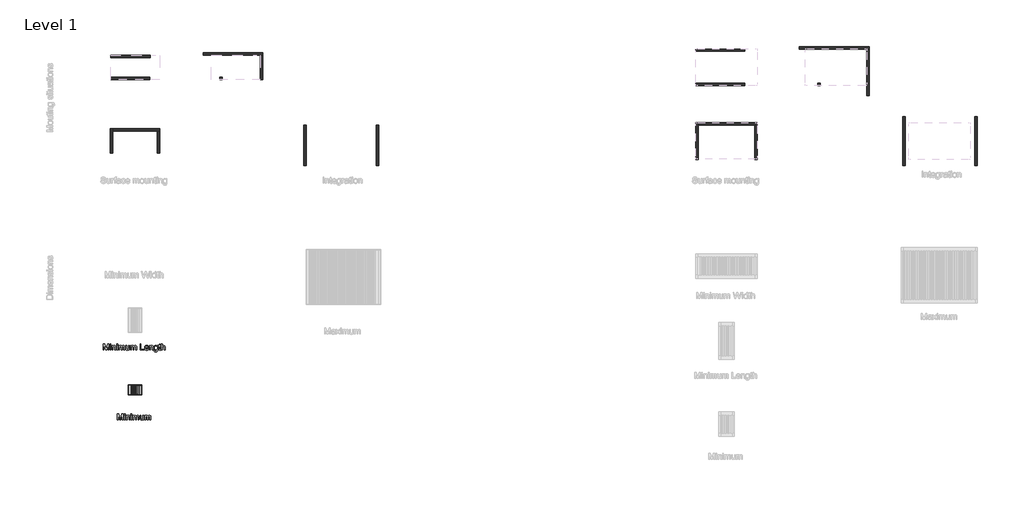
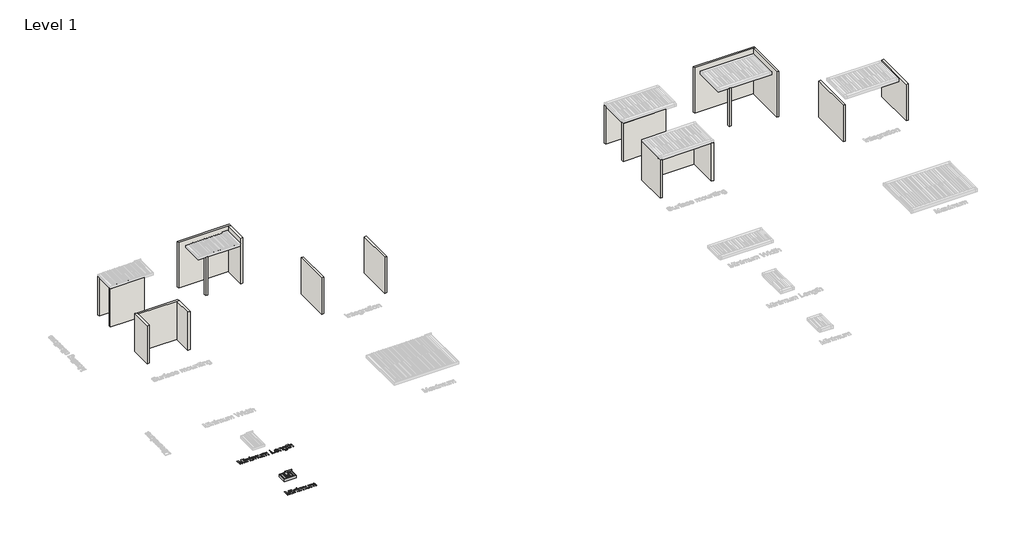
# One storey, part 1 of 12: 20 walls, 3 proxies.
"""IFC4 building model written with IfcOpenShell, lengths in millimetres."""

from ifc_helpers import new_model, si_unit, origin, origin_with_axes, place, context, project, spatial, polyline, outline, extrude, faceted_brep, transform, mapped, element, save
from components import generic_models_86b0b980

model = new_model("IFC4")

# Units and contexts
model_context = context("Model", 3, world=origin())
ifc_project = project(units=[si_unit("LENGTHUNIT", "METRE", prefix="MILLI")], contexts=[model_context])

# Site, building, storey
site = spatial("IfcSite", under=ifc_project)
building = spatial("IfcBuilding", under=site)
storey = spatial("IfcBuildingStorey", under=building, Name="Level 1", Elevation=0.0)

# Proxies
placement = place(None, origin())
generic_models_shape = generic_models_86b0b980(model_context)
element("IfcBuildingElementProxy", 1, Name="Renson_Aero_Patio covers : Aero - Single", ObjectType="Renson_Aero_Patio covers : Aero - Single", at=placement, inside=storey, context=model_context, shape_type="MappedRepresentation", body=[
    mapped(generic_models_shape, transform((-9286.834943, -19998.4078371, 0.0), x_axis=(1.0, 0.0, 0.0), y_axis=(0.0, 1.0, 0.0), z_axis=(0.0, 0.0, 1.0))),
])
element("IfcBuildingElementProxy", 2, Name="500mm Arial", ObjectType="500mm Arial", at=placement, inside=storey, context=model_context, shape_type="SweptSolid", body=[
    extrude(outline(polyline([(-10725.2445903, -22454.1927147), (-10725.2445903, -21951.911164), (-10617.2099111, -21951.911164), (-10514.4482071, -22305.9362707), (-10493.724188, -22379.8805517), (-10471.2833863, -22299.8049041), (-10370.238465, -21951.911164), (-10262.2037857, -21951.911164), (-10262.2037857, -22454.1927147), (-10324.9889796, -22454.1927147), (-10324.9889796, -22014.6963578), (-10451.1725039, -22454.1927147), (-10536.2758721, -22454.1927147), (-10662.4593965, -22014.6963578), (-10662.4593965, -22454.1927147), (-10725.2445903, -22454.1927147)])), origin_with_axes(), (0.0, 0.0, 1.0), 5.0),
    extrude(outline(polyline([(-10160.1778457, -22454.1927147), (-10160.1778457, -22085.3297009), (-10097.3926519, -22085.3297009), (-10097.3926519, -22454.1927147), (-10160.1778457, -22454.1927147)])), origin_with_axes(), (0.0, 0.0, 1.0), 5.0),
    extrude(outline(polyline([(-10160.1778457, -22014.6963578), (-10160.1778457, -21951.911164), (-10097.3926519, -21951.911164), (-10097.3926519, -22014.6963578), (-10160.1778457, -22014.6963578)])), origin_with_axes(), (0.0, 0.0, 1.0), 5.0),
    extrude(outline(polyline([(-10003.2148611, -22454.1927147), (-10003.2148611, -22085.3297009), (-9940.4296673, -22085.3297009), (-9940.4296673, -22136.8331802), (-9918.6173307, -22110.8668427), (-9892.4210669, -22092.3194588), (-9861.8408761, -22081.1910284), (-9826.8767581, -22077.4815516), (-9795.9286853, -22080.4705929), (-9767.5864432, -22089.4377165), (-9743.950025, -22103.2639481), (-9727.1194238, -22120.8303134), (-9715.6997535, -22142.0908271), (-9708.2961283, -22166.9995038), (-9704.9851904, -22227.700033), (-9704.9851904, -22454.1927147), (-9767.7703842, -22454.1927147), (-9767.7703842, -22236.1613189), (-9769.5791374, -22203.6957328), (-9775.0053968, -22180.6111376), (-9785.0148527, -22164.0717763), (-9800.5731955, -22151.2418917), (-9820.5154653, -22143.010532), (-9843.6767026, -22140.2667455), (-9862.7414205, -22141.8072513), (-9880.4495737, -22146.4287689), (-9896.8011619, -22154.1312982), (-9911.7961853, -22164.9148392), (-9924.3233337, -22180.0056652), (-9933.2712968, -22200.6300495), (-9938.6400747, -22226.7879922), (-9940.4296673, -22258.4794933), (-9940.4296673, -22454.1927147), (-10003.2148611, -22454.1927147)])), origin_with_axes(), (0.0, 0.0, 1.0), 5.0),
    extrude(outline(polyline([(-9618.6555488, -22014.6963578), (-9618.6555488, -21951.911164), (-9555.870355, -21951.911164), (-9555.870355, -22014.6963578), (-9618.6555488, -22014.6963578)])), origin_with_axes(), (0.0, 0.0, 1.0), 5.0),
    extrude(outline(polyline([(-9618.6555488, -22454.1927147), (-9618.6555488, -22085.3297009), (-9555.870355, -22085.3297009), (-9555.870355, -22454.1927147), (-9618.6555488, -22454.1927147)])), origin_with_axes(), (0.0, 0.0, 1.0), 5.0),
    extrude(outline(polyline([(-9461.6925642, -22454.1927147), (-9461.6925642, -22085.3297009), (-9398.9073704, -22085.3297009), (-9398.9073704, -22146.0302301), (-9380.0227613, -22118.1478405), (-9355.7425496, -22096.3048471), (-9326.8944698, -22082.1873755), (-9294.3062564, -22077.4815516), (-9259.3881237, -22082.279346), (-9231.3984353, -22096.6727291), (-9210.4904752, -22119.711339), (-9196.8175277, -22150.444814), (-9173.9322019, -22118.5233867), (-9147.8279087, -22095.7223672), (-9118.504648, -22082.0417555), (-9085.9624198, -22077.4815516), (-9060.8276489, -22079.3784432), (-9038.7662255, -22085.0691178), (-9019.7781496, -22094.5535755), (-9003.8634212, -22107.8318163), (-8991.2826234, -22125.0571243), (-8982.2963393, -22146.3827837), (-8976.9045688, -22171.8087945), (-8975.1073119, -22201.3351567), (-8975.1073119, -22454.1927147), (-9037.8925058, -22454.1927147), (-9037.8925058, -22228.3131697), (-9039.3487054, -22196.9972148), (-9043.717304, -22175.8899854), (-9051.9026784, -22161.4352886), (-9064.8092051, -22150.076932), (-9081.4098801, -22142.7192921), (-9100.6776996, -22140.2667455), (-9118.470159, -22141.8379082), (-9134.6914558, -22146.5513962), (-9149.3415898, -22154.4072097), (-9162.4205612, -22165.4053485), (-9173.1772774, -22179.8677094), (-9180.8606462, -22198.1161892), (-9185.4706674, -22220.1507879), (-9187.0073412, -22245.9715054), (-9187.0073412, -22454.1927147), (-9249.792535, -22454.1927147), (-9249.792535, -22221.3234118), (-9253.4253697, -22185.8227992), (-9264.3238738, -22160.5002552), (-9272.7506708, -22151.6480947), (-9283.4997228, -22145.3251229), (-9311.9645922, -22140.2667455), (-9336.1528334, -22143.6389971), (-9358.4403509, -22153.755752), (-9376.8344507, -22170.3717554), (-9389.3424385, -22193.2417528), (-9396.5161374, -22224.9715749), (-9398.9073704, -22268.1670525), (-9398.9073704, -22454.1927147), (-9461.6925642, -22454.1927147)])), origin_with_axes(), (0.0, 0.0, 1.0), 5.0),
    extrude(outline(polyline([(-8645.4850443, -22454.1927147), (-8645.4850443, -22390.7943842), (-8668.2017575, -22421.9647191), (-8694.6586043, -22444.229244), (-8724.8555847, -22457.587959), (-8758.7926988, -22462.0408639), (-8789.3728896, -22458.913867), (-8817.837759, -22449.5328761), (-8841.7194319, -22435.430733), (-8858.5500331, -22418.1402792), (-8869.8777329, -22397.1403486), (-8877.2507012, -22371.9097751), (-8880.9295212, -22313.5391652), (-8880.9295212, -22085.3297009), (-8818.1443273, -22085.3297009), (-8818.1443273, -22283.9859783), (-8814.3428801, -22347.9974454), (-8805.1918154, -22369.3499296), (-8789.5108454, -22385.5827226), (-8768.3423022, -22395.8374332), (-8742.7285183, -22399.2556701), (-8715.6432064, -22395.7607911), (-8690.305334, -22385.2761543), (-8669.4127024, -22368.7674497), (-8655.6631128, -22347.2003678), (-8648.0295614, -22317.6625093), (-8645.4850443, -22277.241475), (-8645.4850443, -22085.3297009), (-8582.6998504, -22085.3297009), (-8582.6998504, -22454.1927147), (-8645.4850443, -22454.1927147)])), origin_with_axes(), (0.0, 0.0, 1.0), 5.0),
    extrude(outline(polyline([(-8496.3702089, -22454.1927147), (-8496.3702089, -22085.3297009), (-8433.585015, -22085.3297009), (-8433.585015, -22146.0302301), (-8414.700406, -22118.1478405), (-8390.4201943, -22096.3048471), (-8361.5721145, -22082.1873755), (-8328.9839011, -22077.4815516), (-8294.0657684, -22082.279346), (-8266.0760799, -22096.6727291), (-8245.1681198, -22119.711339), (-8231.4951724, -22150.444814), (-8208.6098466, -22118.5233867), (-8182.5055533, -22095.7223672), (-8153.1822926, -22082.0417555), (-8120.6400645, -22077.4815516), (-8095.5052936, -22079.3784432), (-8073.4438702, -22085.0691178), (-8054.4557943, -22094.5535755), (-8038.5410659, -22107.8318163), (-8025.9602681, -22125.0571243), (-8016.9739839, -22146.3827837), (-8011.5822134, -22171.8087945), (-8009.7849566, -22201.3351567), (-8009.7849566, -22454.1927147), (-8072.5701504, -22454.1927147), (-8072.5701504, -22228.3131697), (-8074.02635, -22196.9972148), (-8078.3949487, -22175.8899854), (-8086.5803231, -22161.4352886), (-8099.4868498, -22150.076932), (-8116.0875248, -22142.7192921), (-8135.3553443, -22140.2667455), (-8153.1478037, -22141.8379082), (-8169.3691004, -22146.5513962), (-8184.0192345, -22154.4072097), (-8197.0982058, -22165.4053485), (-8207.8549221, -22179.8677094), (-8215.5382908, -22198.1161892), (-8220.1483121, -22220.1507879), (-8221.6849858, -22245.9715054), (-8221.6849858, -22454.1927147), (-8284.4701797, -22454.1927147), (-8284.4701797, -22221.3234118), (-8288.1030144, -22185.8227992), (-8299.0015185, -22160.5002552), (-8307.4283154, -22151.6480947), (-8318.1773675, -22145.3251229), (-8346.6422369, -22140.2667455), (-8370.830478, -22143.6389971), (-8393.1179956, -22153.755752), (-8411.5120953, -22170.3717554), (-8424.0200832, -22193.2417528), (-8431.1937821, -22224.9715749), (-8433.585015, -22268.1670525), (-8433.585015, -22454.1927147), (-8496.3702089, -22454.1927147)])), origin_with_axes(), (0.0, 0.0, 1.0), 5.0),
])
element("IfcBuildingElementProxy", 3, Name="500mm Arial", ObjectType="500mm Arial", at=placement, inside=storey, context=model_context, shape_type="SweptSolid", body=[
    extrude(outline(polyline([(-11882.8466018, -16754.1927147), (-11882.8466018, -16251.911164), (-11774.8119226, -16251.911164), (-11672.0502186, -16605.9362707), (-11651.3261995, -16679.8805517), (-11628.8853978, -16599.8049041), (-11527.8404765, -16251.911164), (-11419.8057972, -16251.911164), (-11419.8057972, -16754.1927147), (-11482.5909911, -16754.1927147), (-11482.5909911, -16314.6963578), (-11608.7745154, -16754.1927147), (-11693.8778836, -16754.1927147), (-11820.061408, -16314.6963578), (-11820.061408, -16754.1927147), (-11882.8466018, -16754.1927147)])), origin_with_axes(), (0.0, 0.0, 1.0), 5.0),
    extrude(outline(polyline([(-11317.7798572, -16754.1927147), (-11317.7798572, -16385.3297009), (-11254.9946634, -16385.3297009), (-11254.9946634, -16754.1927147), (-11317.7798572, -16754.1927147)])), origin_with_axes(), (0.0, 0.0, 1.0), 5.0),
    extrude(outline(polyline([(-11317.7798572, -16314.6963578), (-11317.7798572, -16251.911164), (-11254.9946634, -16251.911164), (-11254.9946634, -16314.6963578), (-11317.7798572, -16314.6963578)])), origin_with_axes(), (0.0, 0.0, 1.0), 5.0),
    extrude(outline(polyline([(-11160.8168726, -16754.1927147), (-11160.8168726, -16385.3297009), (-11098.0316788, -16385.3297009), (-11098.0316788, -16436.8331802), (-11076.2193421, -16410.8668427), (-11050.0230784, -16392.3194588), (-11019.4428876, -16381.1910284), (-10984.4787696, -16377.4815516), (-10953.5306968, -16380.4705929), (-10925.1884547, -16389.4377165), (-10901.5520365, -16403.2639481), (-10884.7214352, -16420.8303134), (-10873.301765, -16442.0908271), (-10865.8981398, -16466.9995038), (-10862.5872019, -16527.700033), (-10862.5872019, -16754.1927147), (-10925.3723957, -16754.1927147), (-10925.3723957, -16536.1613189), (-10927.1811489, -16503.6957328), (-10932.6074083, -16480.6111376), (-10942.6168642, -16464.0717763), (-10958.1752069, -16451.2418917), (-10978.1174768, -16443.010532), (-11001.278714, -16440.2667455), (-11020.343432, -16441.8072513), (-11038.0515851, -16446.4287689), (-11054.4031734, -16454.1312982), (-11069.3981968, -16464.9148392), (-11081.9253452, -16480.0056652), (-11090.8733083, -16500.6300495), (-11096.2420862, -16526.7879922), (-11098.0316788, -16558.4794933), (-11098.0316788, -16754.1927147), (-11160.8168726, -16754.1927147)])), origin_with_axes(), (0.0, 0.0, 1.0), 5.0),
    extrude(outline(polyline([(-10776.2575603, -16314.6963578), (-10776.2575603, -16251.911164), (-10713.4723665, -16251.911164), (-10713.4723665, -16314.6963578), (-10776.2575603, -16314.6963578)])), origin_with_axes(), (0.0, 0.0, 1.0), 5.0),
    extrude(outline(polyline([(-10776.2575603, -16754.1927147), (-10776.2575603, -16385.3297009), (-10713.4723665, -16385.3297009), (-10713.4723665, -16754.1927147), (-10776.2575603, -16754.1927147)])), origin_with_axes(), (0.0, 0.0, 1.0), 5.0),
    extrude(outline(polyline([(-10619.2945757, -16754.1927147), (-10619.2945757, -16385.3297009), (-10556.5093819, -16385.3297009), (-10556.5093819, -16446.0302301), (-10537.6247728, -16418.1478405), (-10513.3445611, -16396.3048471), (-10484.4964813, -16382.1873755), (-10451.9082679, -16377.4815516), (-10416.9901352, -16382.279346), (-10389.0004467, -16396.6727291), (-10368.0924867, -16419.711339), (-10354.4195392, -16450.444814), (-10331.5342134, -16418.5233867), (-10305.4299202, -16395.7223672), (-10276.1066595, -16382.0417555), (-10243.5644313, -16377.4815516), (-10218.4296604, -16379.3784432), (-10196.368237, -16385.0691178), (-10177.3801611, -16394.5535755), (-10161.4654327, -16407.8318163), (-10148.8846349, -16425.0571243), (-10139.8983508, -16446.3827837), (-10134.5065803, -16471.8087945), (-10132.7093234, -16501.3351567), (-10132.7093234, -16754.1927147), (-10195.4945173, -16754.1927147), (-10195.4945173, -16528.3131697), (-10196.9507168, -16496.9972148), (-10201.3193155, -16475.8899854), (-10209.5046899, -16461.4352886), (-10222.4112166, -16450.076932), (-10239.0118916, -16442.7192921), (-10258.2797111, -16440.2667455), (-10276.0721705, -16441.8379082), (-10292.2934673, -16446.5513962), (-10306.9436013, -16454.4072097), (-10320.0225726, -16465.4053485), (-10330.7792889, -16479.8677094), (-10338.4626577, -16498.1161892), (-10343.0726789, -16520.1507879), (-10344.6093527, -16545.9715054), (-10344.6093527, -16754.1927147), (-10407.3945465, -16754.1927147), (-10407.3945465, -16521.3234118), (-10411.0273812, -16485.8227992), (-10421.9258853, -16460.5002552), (-10430.3526823, -16451.6480947), (-10441.1017343, -16445.3251229), (-10469.5666037, -16440.2667455), (-10493.7548449, -16443.6389971), (-10516.0423624, -16453.755752), (-10534.4364622, -16470.3717554), (-10546.94445, -16493.2417528), (-10554.1181489, -16524.9715749), (-10556.5093819, -16568.1670525), (-10556.5093819, -16754.1927147), (-10619.2945757, -16754.1927147)])), origin_with_axes(), (0.0, 0.0, 1.0), 5.0),
    extrude(outline(polyline([(-9803.0870558, -16754.1927147), (-9803.0870558, -16690.7943842), (-9825.803769, -16721.9647191), (-9852.2606158, -16744.229244), (-9882.4575962, -16757.587959), (-9916.3947103, -16762.0408639), (-9946.9749011, -16758.913867), (-9975.4397705, -16749.5328761), (-9999.3214433, -16735.430733), (-10016.1520446, -16718.1402792), (-10027.4797444, -16697.1403486), (-10034.8527127, -16671.9097751), (-10038.5315327, -16613.5391652), (-10038.5315327, -16385.3297009), (-9975.7463388, -16385.3297009), (-9975.7463388, -16583.9859783), (-9971.9448915, -16647.9974454), (-9962.7938269, -16669.3499296), (-9947.1128569, -16685.5827226), (-9925.9443137, -16695.8374332), (-9900.3305298, -16699.2556701), (-9873.2452179, -16695.7607911), (-9847.9073455, -16685.2761543), (-9827.0147139, -16668.7674497), (-9813.2651243, -16647.2003678), (-9805.6315729, -16617.6625093), (-9803.0870558, -16577.241475), (-9803.0870558, -16385.3297009), (-9740.3018619, -16385.3297009), (-9740.3018619, -16754.1927147), (-9803.0870558, -16754.1927147)])), origin_with_axes(), (0.0, 0.0, 1.0), 5.0),
    extrude(outline(polyline([(-9653.9722204, -16754.1927147), (-9653.9722204, -16385.3297009), (-9591.1870265, -16385.3297009), (-9591.1870265, -16446.0302301), (-9572.3024174, -16418.1478405), (-9548.0222058, -16396.3048471), (-9519.174126, -16382.1873755), (-9486.5859126, -16377.4815516), (-9451.6677799, -16382.279346), (-9423.6780914, -16396.6727291), (-9402.7701313, -16419.711339), (-9389.0971838, -16450.444814), (-9366.2118581, -16418.5233867), (-9340.1075648, -16395.7223672), (-9310.7843041, -16382.0417555), (-9278.242076, -16377.4815516), (-9253.1073051, -16379.3784432), (-9231.0458817, -16385.0691178), (-9212.0578058, -16394.5535755), (-9196.1430774, -16407.8318163), (-9183.5622796, -16425.0571243), (-9174.5759954, -16446.3827837), (-9169.1842249, -16471.8087945), (-9167.3869681, -16501.3351567), (-9167.3869681, -16754.1927147), (-9230.1721619, -16754.1927147), (-9230.1721619, -16528.3131697), (-9231.6283615, -16496.9972148), (-9235.9969602, -16475.8899854), (-9244.1823346, -16461.4352886), (-9257.0888612, -16450.076932), (-9273.6895363, -16442.7192921), (-9292.9573558, -16440.2667455), (-9310.7498152, -16441.8379082), (-9326.9711119, -16446.5513962), (-9341.621246, -16454.4072097), (-9354.7002173, -16465.4053485), (-9365.4569336, -16479.8677094), (-9373.1403023, -16498.1161892), (-9377.7503236, -16520.1507879), (-9379.2869973, -16545.9715054), (-9379.2869973, -16754.1927147), (-9442.0721912, -16754.1927147), (-9442.0721912, -16521.3234118), (-9445.7050259, -16485.8227992), (-9456.60353, -16460.5002552), (-9465.0303269, -16451.6480947), (-9475.779379, -16445.3251229), (-9504.2442483, -16440.2667455), (-9528.4324895, -16443.6389971), (-9550.7200071, -16453.755752), (-9569.1141068, -16470.3717554), (-9581.6220947, -16493.2417528), (-9588.7957936, -16524.9715749), (-9591.1870265, -16568.1670525), (-9591.1870265, -16754.1927147), (-9653.9722204, -16754.1927147)])), origin_with_axes(), (0.0, 0.0, 1.0), 5.0),
    extrude(outline(polyline([(-8869.1572973, -16754.1927147), (-8869.1572973, -16251.911164), (-8806.3721035, -16251.911164), (-8806.3721035, -16691.4075209), (-8555.2313281, -16691.4075209), (-8555.2313281, -16754.1927147), (-8869.1572973, -16754.1927147)])), origin_with_axes(), (0.0, 0.0, 1.0), 5.0),
    extrude(outline(polyline([(-8234.1929737, -16644.3186255), (-8172.6340531, -16652.1667747), (-8182.0725256, -16676.8225326), (-8194.8142718, -16698.5505629), (-8210.8592917, -16717.3508657), (-8230.2075854, -16733.223441), (-8252.6598834, -16745.8310635), (-8278.0169163, -16754.8365082), (-8306.2786842, -16760.239775), (-8337.445187, -16762.0408639), (-8376.4023574, -16758.9330275), (-8411.1135565, -16749.6095182), (-8441.5787842, -16734.070336), (-8467.7980406, -16712.3154809), (-8488.8822774, -16684.9504254), (-8503.9424466, -16652.580642), (-8512.9785481, -16615.2061305), (-8515.990582, -16572.8268911), (-8512.9478913, -16529.0106126), (-8503.8198193, -16490.3906673), (-8488.6063659, -16456.9670552), (-8467.3075313, -16428.7397763), (-8441.1572528, -16406.314303), (-8411.389468, -16390.2961078), (-8378.0041769, -16380.6851907), (-8341.0013796, -16377.4815516), (-8305.1903666, -16380.6775265), (-8272.8052547, -16390.265451), (-8243.8460439, -16406.2453251), (-8218.3127342, -16428.617149), (-8197.4699199, -16456.7831142), (-8182.5821954, -16490.1454127), (-8173.6495607, -16528.7040443), (-8170.6720158, -16572.4590091), (-8171.0398978, -16589.3815809), (-8453.2053881, -16589.3815809), (-8449.5687213, -16614.4358776), (-8442.3375408, -16636.3785058), (-8431.5118467, -16655.2094654), (-8417.0916389, -16670.9287565), (-8399.8739951, -16683.3217812), (-8380.655993, -16692.1739417), (-8359.4376325, -16697.485238), (-8336.2189137, -16699.2556701), (-8302.8029658, -16695.975389), (-8274.6599931, -16686.1345456), (-8251.7899958, -16669.1200033), (-8234.1929737, -16644.3186255)]), holes=[polyline([(-8453.2053881, -16526.596387), (-8233.4572097, -16526.596387), (-8241.9491524, -16493.4256938), (-8258.5958127, -16469.6973051), (-8275.7176539, -16456.8214353), (-8295.2000712, -16447.6243854), (-8317.0430647, -16442.1061555), (-8341.2466343, -16440.2667455), (-8383.5683921, -16446.137529), (-8401.9816524, -16453.4760084), (-8418.5631669, -16463.7498795), (-8432.477537, -16476.4839615), (-8442.8893638, -16491.2030734), (-8449.7986476, -16507.9072153), (-8453.2053881, -16526.596387)])]), origin_with_axes(), (0.0, 0.0, 1.0), 5.0),
    extrude(outline(polyline([(-8107.886822, -16754.1927147), (-8107.886822, -16385.3297009), (-8045.1016281, -16385.3297009), (-8045.1016281, -16436.8331802), (-8023.2892915, -16410.8668427), (-7997.0930278, -16392.3194588), (-7966.5128369, -16381.1910284), (-7931.548719, -16377.4815516), (-7900.6006461, -16380.4705929), (-7872.2584041, -16389.4377165), (-7848.6219859, -16403.2639481), (-7831.7913846, -16420.8303134), (-7820.3717143, -16442.0908271), (-7812.9680892, -16466.9995038), (-7809.6571512, -16527.700033), (-7809.6571512, -16754.1927147), (-7872.4423451, -16754.1927147), (-7872.4423451, -16536.1613189), (-7874.2510982, -16503.6957328), (-7879.6773576, -16480.6111376), (-7889.6868136, -16464.0717763), (-7905.2451563, -16451.2418917), (-7925.1874261, -16443.010532), (-7948.3486634, -16440.2667455), (-7967.4133814, -16441.8072513), (-7985.1215345, -16446.4287689), (-8001.4731228, -16454.1312982), (-8016.4681462, -16464.9148392), (-8028.9952945, -16480.0056652), (-8037.9432576, -16500.6300495), (-8043.3120355, -16526.7879922), (-8045.1016281, -16558.4794933), (-8045.1016281, -16754.1927147), (-8107.886822, -16754.1927147)])), origin_with_axes(), (0.0, 0.0, 1.0), 5.0),
    extrude(outline(polyline([(-7739.0238082, -16785.5853116), (-7676.2386143, -16793.4334609), (-7669.3101701, -16813.0538339), (-7655.8824772, -16826.5428404), (-7629.4869441, -16837.0274773), (-7594.9366934, -16840.5223562), (-7558.0871802, -16836.5676248), (-7530.6799715, -16824.7034305), (-7511.6727351, -16805.696194), (-7500.0231386, -16780.3123364), (-7496.6202302, -16753.3036666), (-7495.731182, -16707.1038193), (-7516.6238136, -16727.7052111), (-7539.9383351, -16742.4204909), (-7565.6747463, -16751.2496587), (-7593.8330474, -16754.1927147), (-7628.2568387, -16750.7668136), (-7658.5649501, -16740.4891104), (-7684.7573818, -16723.359605), (-7706.8341336, -16699.3782974), (-7724.3506815, -16670.6068597), (-7736.8625014, -16639.1069639), (-7744.3695934, -16604.8786099), (-7746.8719574, -16567.9217978), (-7742.3807314, -16517.2307246), (-7728.9070533, -16470.6170101), (-7706.9261041, -16431.1156809), (-7692.9235956, -16415.1702956), (-7676.9130646, -16401.7617633), (-7659.1512621, -16391.1391707), (-7639.8949389, -16383.5516046), (-7619.1440951, -16378.9990649), (-7596.8987307, -16377.4815516), (-7567.5371489, -16380.9151169), (-7540.8886969, -16391.2158128), (-7516.9533746, -16408.3836392), (-7495.731182, -16432.4185963), (-7495.731182, -16385.3297009), (-7432.9459882, -16385.3297009), (-7432.9459882, -16703.7928814), (-7437.2379448, -16777.3232952), (-7442.6028905, -16804.6730222), (-7450.1138146, -16825.7457628), (-7472.2940332, -16857.8587953), (-7504.4990362, -16882.4609037), (-7524.1845551, -16891.5813115), (-7546.0237164, -16898.0958885), (-7596.1629667, -16903.3075501), (-7626.9232664, -16901.4719722), (-7654.5795618, -16895.9652386), (-7679.1318529, -16886.7873492), (-7700.5801397, -16873.9383041), (-7717.9050824, -16857.4027749), (-7730.0873414, -16837.165433), (-7737.1269166, -16813.2262786), (-7739.0238082, -16785.5853116)]), holes=[polyline([(-7684.0867635, -16563.6298412), (-7682.412134, -16594.6737167), (-7677.3882455, -16621.2187019), (-7669.015098, -16643.2647969), (-7657.2926916, -16660.8120016), (-7643.0410963, -16674.1975413), (-7627.0803827, -16683.7586411), (-7609.4105506, -16689.4953009), (-7590.0316001, -16691.4075209), (-7570.8442548, -16689.5067972), (-7553.258729, -16683.8046263), (-7537.2750227, -16674.3010081), (-7522.893136, -16660.9959426), (-7511.0097811, -16643.6211825), (-7502.5216705, -16621.9084806), (-7497.4288041, -16595.8578368), (-7495.731182, -16565.4692512), (-7497.4786215, -16536.349092), (-7502.7209399, -16511.0380443), (-7511.4581373, -16489.5361081), (-7523.6902136, -16471.8432834), (-7538.3825008, -16458.0285481), (-7554.5003307, -16448.16088), (-7572.0437034, -16442.2402791), (-7591.0126188, -16440.2667455), (-7609.6634695, -16442.2096223), (-7626.8657849, -16448.0382526), (-7642.6195649, -16457.7526366), (-7656.9248096, -16471.3527741), (-7668.8081644, -16488.7773515), (-7677.296275, -16509.9650552), (-7682.3891414, -16534.9158851), (-7684.0867635, -16563.6298412)])]), origin_with_axes(), (0.0, 0.0, 1.0), 5.0),
    extrude(outline(polyline([(-7205.3496605, -16701.8308441), (-7197.5015113, -16756.0321247), (-7244.4677793, -16762.0408639), (-7274.6034461, -16759.4350331), (-7297.0749046, -16751.6175407), (-7312.9551441, -16739.5694054), (-7323.3171536, -16724.2716458), (-7329.0193245, -16697.9987399), (-7330.9200482, -16653.025166), (-7330.9200482, -16448.1148947), (-7378.0089436, -16448.1148947), (-7378.0089436, -16385.3297009), (-7330.9200482, -16385.3297009), (-7330.9200482, -16295.6891214), (-7268.1348543, -16258.7782945), (-7268.1348543, -16385.3297009), (-7205.3496605, -16385.3297009), (-7205.3496605, -16448.1148947), (-7268.1348543, -16448.1148947), (-7268.1348543, -16651.1857561), (-7264.8239164, -16683.5593716), (-7254.0940248, -16695.0250272), (-7232.6955555, -16699.2556701), (-7205.3496605, -16701.8308441)])), origin_with_axes(), (0.0, 0.0, 1.0), 5.0),
    extrude(outline(polyline([(-7142.5644666, -16754.1927147), (-7142.5644666, -16251.911164), (-7079.7792728, -16251.911164), (-7079.7792728, -16436.5879255), (-7056.7176702, -16410.728887), (-7030.8203106, -16392.2581451), (-7002.0871939, -16381.1757), (-6970.5183202, -16377.4815516), (-6932.5958179, -16381.5129252), (-6900.0076045, -16393.6070458), (-6874.3478353, -16412.8135516), (-6857.2106657, -16438.1820809), (-6847.5537633, -16473.0388999), (-6844.3347959, -16520.7102751), (-6844.3347959, -16754.1927147), (-6907.1199897, -16754.1927147), (-6907.1199897, -16527.2095237), (-6912.1170535, -16487.9074639), (-6918.3633832, -16472.9009441), (-6927.1082448, -16460.9907646), (-6938.1447047, -16451.9240062), (-6951.2658291, -16445.4477503), (-6983.7620721, -16440.2667455), (-7010.295561, -16443.7616244), (-7035.2042377, -16454.2462613), (-7055.8362863, -16470.7089806), (-7069.5398906, -16492.1381068), (-7077.2194272, -16520.6183046), (-7079.7792728, -16558.2342386), (-7079.7792728, -16754.1927147), (-7142.5644666, -16754.1927147)])), origin_with_axes(), (0.0, 0.0, 1.0), 5.0),
])

# Walls
element("IfcWall", 4, ObjectType="Generic - 200mm", at=placement, inside=storey, context=model_context, shape_type="Brep", body=[
    faceted_brep([(-11096.834943, -692.4078371, 0.0), (-11096.834943, 1091.5921629, 0.0), (-11096.834943, 1291.5921629, 0.0), (-11096.834943, 1291.5921629, 3770.0), (-11096.834943, 1091.5921629, 3770.0), (-11096.834943, -692.4078371, 3770.0), (-11296.834943, -692.4078371, 0.0), (-11296.834943, -692.4078371, 3770.0), (-11296.834943, 1291.5921629, 3770.0), (-11296.834943, 1291.5921629, 0.0)], [[[0, 1, 2, 3, 4, 5]], [[6, 7, 8, 9]], [[2, 1, 0, 6, 9]], [[5, 4, 3, 8, 7]], [[0, 5, 7, 6]], [[3, 2, 9, 8]]]),
])
element("IfcWall", 5, ObjectType="Generic - 200mm", at=placement, inside=storey, context=model_context, shape_type="Brep", body=[
    faceted_brep([(-11096.834943, 1091.5921629, 0.0), (-7476.834943, 1091.5921629, 0.0), (-7276.834943, 1091.5921629, 0.0), (-7276.834943, 1091.5921629, 3770.0), (-7476.834943, 1091.5921629, 3770.0), (-11096.834943, 1091.5921629, 3770.0), (-11096.834943, 1291.5921629, 0.0), (-11096.834943, 1291.5921629, 3770.0), (-7276.834943, 1291.5921629, 3770.0), (-7276.834943, 1291.5921629, 0.0)], [[[0, 1, 2, 3, 4, 5]], [[6, 7, 8, 9]], [[2, 1, 0, 6, 9]], [[5, 4, 3, 8, 7]], [[0, 5, 7, 6]], [[3, 2, 9, 8]]]),
])
element("IfcWall", 6, ObjectType="Generic - 200mm", at=placement, inside=storey, context=model_context, shape_type="SweptSolid", body=[
    extrude(outline(polyline([(-7276.834943, 1091.5921629), (-7276.834943, -692.4078371), (-7476.834943, -692.4078371), (-7476.834943, 1091.5921629), (-7276.834943, 1091.5921629)])), origin_with_axes(), (0.0, 0.0, 1.0), 3770.0),
])
element("IfcWall", 7, ObjectType="Generic - 200mm", at=placement, inside=storey, context=model_context, shape_type="SweptSolid", body=[
    extrude(outline(polyline([(4643.8510454, 1601.5921629), (4643.8510454, -1698.4078371), (4443.8510454, -1698.4078371), (4443.8510454, 1601.5921629), (4643.8510454, 1601.5921629)])), origin_with_axes(), (0.0, 0.0, 1.0), 3600.0),
])
element("IfcWall", 8, ObjectType="Generic - 200mm", at=placement, inside=storey, context=model_context, shape_type="SweptSolid", body=[
    extrude(outline(polyline([(10543.8510454, 1601.5921629), (10543.8510454, -1698.4078371), (10343.8510454, -1698.4078371), (10343.8510454, 1601.5921629), (10543.8510454, 1601.5921629)])), origin_with_axes(), (0.0, 0.0, 1.0), 3600.0),
])
element("IfcWall", 9, ObjectType="Generic - 200mm", at=placement, inside=storey, context=model_context, shape_type="SweptSolid", body=[
    extrude(outline(polyline([(-8066.834943, 7101.5921629), (-11286.834943, 7101.5921629), (-11286.834943, 7301.5921629), (-8066.834943, 7301.5921629), (-8066.834943, 7101.5921629)])), origin_with_axes(), (0.0, 0.0, 1.0), 3770.0),
])
element("IfcWall", 10, ObjectType="Generic - 200mm", at=placement, inside=storey, context=model_context, shape_type="SweptSolid", body=[
    extrude(outline(polyline([(-8086.834943, 5301.5921629), (-11286.834943, 5301.5921629), (-11286.834943, 5501.5921629), (-8086.834943, 5501.5921629), (-8086.834943, 5301.5921629)])), origin_with_axes(), (0.0, 0.0, 1.0), 3770.0),
])
element("IfcWall", 11, ObjectType="Generic - 200mm", at=placement, inside=storey, context=model_context, shape_type="Brep", body=[
    faceted_brep([(1123.5080512, 7501.5921629, 0.0), (-3736.834943, 7501.5921629, 0.0), (-3736.834943, 7501.5921629, 4500.0), (1123.5080512, 7501.5921629, 4500.0), (1123.5080512, 7301.5921629, 0.0), (1123.5080512, 7301.5921629, 4500.0), (923.5080512, 7301.5921629, 4500.0), (-3736.834943, 7301.5921629, 4500.0), (-3736.834943, 7301.5921629, 0.0), (923.5080512, 7301.5921629, 0.0)], [[[0, 1, 2, 3]], [[4, 5, 6, 7, 8, 9]], [[1, 0, 4, 9, 8]], [[2, 1, 8, 7]], [[3, 2, 7, 6, 5]], [[0, 3, 5, 4]]]),
])
element("IfcWall", 12, ObjectType="Generic - 200mm", at=placement, inside=storey, context=model_context, shape_type="SweptSolid", body=[
    extrude(outline(polyline([(1123.5080512, 7301.5921629), (1123.5080512, 5301.5921629), (923.5080512, 5301.5921629), (923.5080512, 7301.5921629), (1123.5080512, 7301.5921629)])), origin_with_axes(), (0.0, 0.0, 1.0), 4500.0),
])
element("IfcWall", 13, ObjectType="Generic - 200mm", at=placement, inside=storey, context=model_context, shape_type="SweptSolid", body=[
    extrude(outline(polyline([(-2176.4919488, 5301.5921629), (-2376.4919488, 5301.5921629), (-2376.4919488, 5501.5921629), (-2176.4919488, 5501.5921629), (-2176.4919488, 5301.5921629)])), origin_with_axes(), (0.0, 0.0, 1.0), 3770.0),
])
element("IfcWall", 14, ObjectType="Generic - 200mm", at=placement, inside=storey, context=model_context, shape_type="Brep", body=[
    faceted_brep([(36593.1736148, -1208.4078371, 0.0), (36593.1736148, 1591.5921629, 0.0), (36593.1736148, 1791.5921629, 0.0), (36593.1736148, 1791.5921629, 3770.0), (36593.1736148, 1591.5921629, 3770.0), (36593.1736148, -1208.4078371, 3770.0), (36393.1736148, -1208.4078371, 0.0), (36393.1736148, -1208.4078371, 3770.0), (36393.1736148, 1791.5921629, 3770.0), (36393.1736148, 1791.5921629, 0.0)], [[[0, 1, 2, 3, 4, 5]], [[6, 7, 8, 9]], [[2, 1, 0, 6, 9]], [[3, 2, 9, 8]], [[5, 4, 3, 8, 7]], [[0, 5, 7, 6]]]),
])
element("IfcWall", 15, ObjectType="Generic - 200mm", at=placement, inside=storey, context=model_context, shape_type="Brep", body=[
    faceted_brep([(36593.1736148, 1591.5921629, 0.0), (41193.1736148, 1591.5921629, 0.0), (41393.1736148, 1591.5921629, 0.0), (41393.1736148, 1591.5921629, 3770.0), (41193.1736148, 1591.5921629, 3770.0), (36593.1736148, 1591.5921629, 3770.0), (36593.1736148, 1791.5921629, 0.0), (36593.1736148, 1791.5921629, 3770.0), (41393.1736148, 1791.5921629, 3770.0), (41393.1736148, 1791.5921629, 0.0)], [[[0, 1, 2, 3, 4, 5]], [[6, 7, 8, 9]], [[2, 1, 0, 6, 9]], [[5, 4, 3, 8, 7]], [[3, 2, 9, 8]], [[0, 5, 7, 6]]]),
])
element("IfcWall", 16, ObjectType="Generic - 200mm", at=placement, inside=storey, context=model_context, shape_type="SweptSolid", body=[
    extrude(outline(polyline([(41393.1736148, 1591.5921629), (41393.1736148, -1208.4078371), (41193.1736148, -1208.4078371), (41193.1736148, 1591.5921629), (41393.1736148, 1591.5921629)])), origin_with_axes(), (0.0, 0.0, 1.0), 3770.0),
])
element("IfcWall", 17, ObjectType="Generic - 200mm", at=placement, inside=storey, context=model_context, shape_type="SweptSolid", body=[
    extrude(outline(polyline([(53433.8596032, 2291.5921629), (53433.8596032, -1698.4078371), (53233.8596032, -1698.4078371), (53233.8596032, 2291.5921629), (53433.8596032, 2291.5921629)])), origin_with_axes(), (0.0, 0.0, 1.0), 3600.0),
])
element("IfcWall", 18, ObjectType="Generic - 200mm", at=placement, inside=storey, context=model_context, shape_type="SweptSolid", body=[
    extrude(outline(polyline([(59333.8596032, 2291.5921629), (59333.8596032, -1698.4078371), (59133.8596032, -1698.4078371), (59133.8596032, 2291.5921629), (59333.8596032, 2291.5921629)])), origin_with_axes(), (0.0, 0.0, 1.0), 3600.0),
])
element("IfcWall", 19, ObjectType="Generic - 200mm", at=placement, inside=storey, context=model_context, shape_type="SweptSolid", body=[
    extrude(outline(polyline([(40393.1736148, 7601.5921629), (36393.1736148, 7601.5921629), (36393.1736148, 7801.5921629), (40393.1736148, 7801.5921629), (40393.1736148, 7601.5921629)])), origin_with_axes(), (0.0, 0.0, 1.0), 3770.0),
])
element("IfcWall", 20, ObjectType="Generic - 200mm", at=placement, inside=storey, context=model_context, shape_type="SweptSolid", body=[
    extrude(outline(polyline([(40393.1736148, 4801.5921629), (36393.1736148, 4801.5921629), (36393.1736148, 5001.5921629), (40393.1736148, 5001.5921629), (40393.1736148, 4801.5921629)])), origin_with_axes(), (0.0, 0.0, 1.0), 3770.0),
])
element("IfcWall", 21, ObjectType="Generic - 200mm", at=placement, inside=storey, context=model_context, shape_type="Brep", body=[
    faceted_brep([(50513.516609, 8001.5921629, 0.0), (44813.516609, 8001.5921629, 0.0), (44813.516609, 8001.5921629, 4500.0), (50513.516609, 8001.5921629, 4500.0), (50513.516609, 7801.5921629, 0.0), (50513.516609, 7801.5921629, 4500.0), (50313.516609, 7801.5921629, 4500.0), (44813.516609, 7801.5921629, 4500.0), (44813.516609, 7801.5921629, 0.0), (50313.516609, 7801.5921629, 0.0)], [[[0, 1, 2, 3]], [[4, 5, 6, 7, 8, 9]], [[1, 0, 4, 9, 8]], [[2, 1, 8, 7]], [[3, 2, 7, 6, 5]], [[0, 3, 5, 4]]]),
])
element("IfcWall", 22, ObjectType="Generic - 200mm", at=placement, inside=storey, context=model_context, shape_type="SweptSolid", body=[
    extrude(outline(polyline([(50513.516609, 7801.5921629), (50513.516609, 4001.5921629), (50313.516609, 4001.5921629), (50313.516609, 7801.5921629), (50513.516609, 7801.5921629)])), origin_with_axes(), (0.0, 0.0, 1.0), 4500.0),
])
element("IfcWall", 23, ObjectType="Generic - 200mm", at=placement, inside=storey, context=model_context, shape_type="SweptSolid", body=[
    extrude(outline(polyline([(46513.516609, 4801.5921629), (46313.516609, 4801.5921629), (46313.516609, 5001.5921629), (46513.516609, 5001.5921629), (46513.516609, 4801.5921629)])), origin_with_axes(), (0.0, 0.0, 1.0), 3770.0),
])

save(model, "model.ifc")
